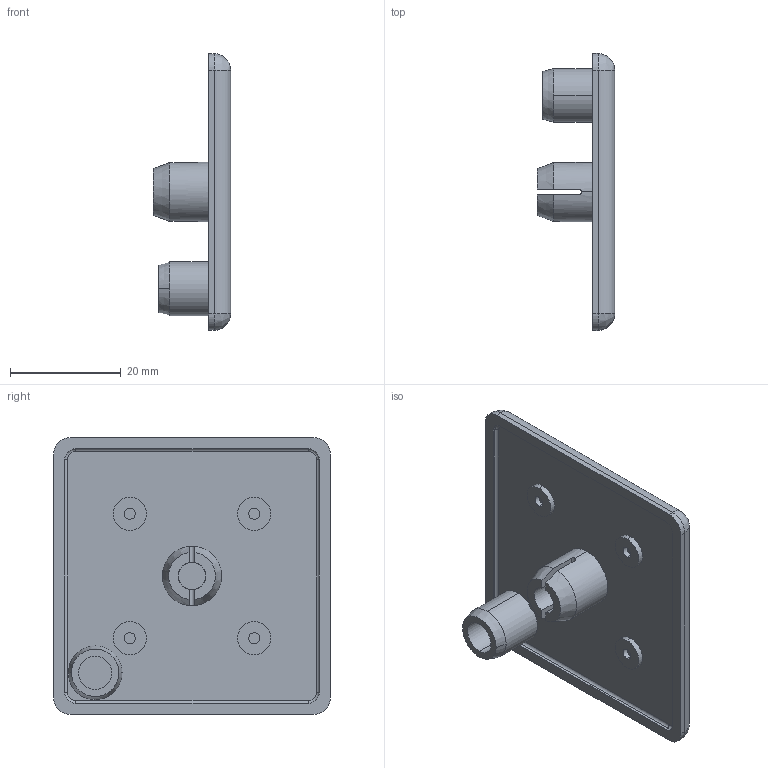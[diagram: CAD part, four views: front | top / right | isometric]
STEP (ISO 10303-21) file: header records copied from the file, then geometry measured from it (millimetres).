
FILE_DESCRIPTION (( 'STEP AP203' ), '1' );
FILE_NAME ('401065_Abdeckkappe 50x50 Nut 10.step', '2022-05-13T07:01:21', ( '' ), ( '' ), 'SwSTEP 2.0', 'SolidWorks 2021', '' );
FILE_SCHEMA (( 'CONFIG_CONTROL_DESIGN' ));
Length unit declared in the file: millimetre
Products named in the file (1): 401065_Abdeckkappe 50x50 Nut 10
Bounding box: 14 x 50 x 50 mm (x, y, z)
Volume: 8718.2 mm3; surface area: 6785.4 mm2
Topology: 1 solids, 1 shells, 82 faces, 188 edges, 116 vertices
Faces by surface type: cylinder 42, plane 28, bspline 8, cone 4
Entity records: 2551 total; most frequent: CARTESIAN_POINT 627, DIRECTION 404, ORIENTED_EDGE 368, EDGE_CURVE 184, AXIS2_PLACEMENT_3D 161, VERTEX_POINT 116, EDGE_LOOP 94, CIRCLE 86
